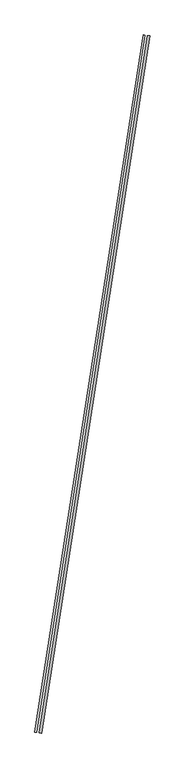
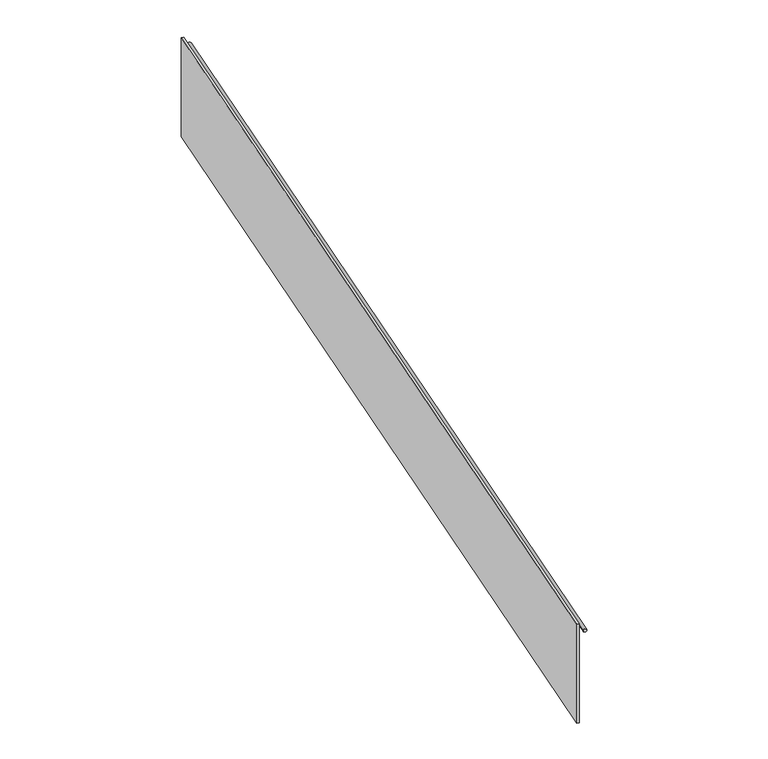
"""IFC4 building model written with IfcOpenShell, lengths in millimetres: railing geometry, Panel de vidrio - balcón."""

import ifcopenshell
import ifcopenshell.guid

model = None  # the IFC model being written
_history = None  # IfcOwnerHistory: only IFC2X3 demands one
_inside = {}  # id of a spatial element -> (the spatial element, [elements in it])
_under = {}  # id of a project, library or spatial element -> (it, [spatial elements below it])
_declared = {}  # id of a project -> (the project, [libraries it declares])
_typed = {}  # id of a type object -> (the type object, [elements of that type])
_made_of = {}  # id of a material, layer set ... -> (it, [elements and type objects made of it])


def new_model(schema):
    """Start an empty IFC model of exactly this schema.

    Asked for "IFC4X3", IfcOpenShell would pick the latest addendum, in which some entities
    have other attributes; the version numbers below select the first issue.
    IFC2X3 requires an IfcOwnerHistory on every rooted entity: one is made here for all.
    """
    global model, _history
    if schema == "IFC4X3":
        model = ifcopenshell.file(schema_version=(4, 3, 0, 0))
    else:
        model = ifcopenshell.file(schema=schema)
    _inside.clear()
    _under.clear()
    _declared.clear()
    _typed.clear()
    _made_of.clear()
    _history = None
    if model.schema == "IFC2X3":
        org = make("IfcOrganization", Name="unknown")
        user = make(
            "IfcPersonAndOrganization",
            ThePerson=make("IfcPerson", FamilyName="unknown"),
            TheOrganization=org,
        )
        app = make(
            "IfcApplication",
            ApplicationDeveloper=org,
            Version="unknown",
            ApplicationFullName="unknown",
            ApplicationIdentifier="unknown",
        )
        _history = make(
            "IfcOwnerHistory",
            OwningUser=user,
            OwningApplication=app,
            ChangeAction="ADDED",
            CreationDate=0,
        )
    return model


def make(cls, **values):
    """One entity of the class cls with the attributes given. An attribute that is None is left unset."""
    return model.create_entity(
        cls, **{name: value for name, value in values.items() if value is not None}
    )


def rooted(cls, **values):
    """An entity with a GlobalId (a new one), such as an element, a storey or a relation."""
    return make(cls, GlobalId=ifcopenshell.guid.new(), OwnerHistory=_history, **values)


def si_unit(unit_type, name, prefix=None):
    """IfcSIUnit, for example si_unit("LENGTHUNIT", "METRE", prefix="MILLI")."""
    return make("IfcSIUnit", UnitType=unit_type, Prefix=prefix, Name=name)


def assignment(units):
    """IfcUnitAssignment: the units of a project."""
    return None if units is None else make("IfcUnitAssignment", Units=units)


def point(xyz):
    """IfcCartesianPoint."""
    return None if xyz is None else make("IfcCartesianPoint", Coordinates=xyz)


def direction(xyz):
    """IfcDirection."""
    return None if xyz is None else make("IfcDirection", DirectionRatios=xyz)


def frame(location, z_axis=None, x_axis=None):
    """IfcAxis2Placement3D, a coordinate frame: its origin and axes. An axis left out is left unset."""
    return make(
        "IfcAxis2Placement3D",
        Location=point(location),
        Axis=direction(z_axis),
        RefDirection=direction(x_axis),
    )


def frame_2d(location, x_axis=None):
    """IfcAxis2Placement2D, a coordinate frame in the plane: its origin and x axis."""
    return make(
        "IfcAxis2Placement2D", Location=point(location), RefDirection=direction(x_axis)
    )


def origin():
    """The frame at (0, 0, 0) with its axes left unset."""
    return frame((0.0, 0.0, 0.0))


def origin_2d():
    """The frame at (0, 0) in the plane with its x axis left unset."""
    return frame_2d((0.0, 0.0))


def place(relative_to, where):
    """IfcLocalPlacement: puts the frame where relative to a parent placement (None: the world)."""
    return make(
        "IfcLocalPlacement", PlacementRelTo=relative_to, RelativePlacement=where
    )


def context(
    kind, dimensions, precision=None, world=None, true_north=None, identifier=None
):
    """IfcGeometricRepresentationContext, for example the 3D "Model" context."""
    return make(
        "IfcGeometricRepresentationContext",
        ContextIdentifier=identifier,
        ContextType=kind,
        CoordinateSpaceDimension=dimensions,
        Precision=precision,
        WorldCoordinateSystem=world,
        TrueNorth=true_north,
    )


def project(units=None, contexts=None):
    """IfcProject with its units and contexts."""
    return rooted(
        "IfcProject",
        Name="project",
        RepresentationContexts=contexts,
        UnitsInContext=assignment(units),
    )


def spatial(cls, under=None, at=None, **own):
    """A site, building, storey or space (cls), placed at a placement, below another one or the project."""
    s = rooted(cls, ObjectPlacement=at, **own)
    if under is not None:
        _under.setdefault(under.id(), (under, []))[1].append(s)
    return s


def polyline(points):
    """IfcPolyline through the points."""
    return make("IfcPolyline", Points=[point(p) for p in points])


def circle_curve(where, radius):
    """IfcCircle in the frame where."""
    return make("IfcCircle", Position=where, Radius=radius)


def trimmed(basis, trim1, trim2, sense, master):
    """IfcTrimmedCurve: the piece of a basis curve between two trims."""
    return make(
        "IfcTrimmedCurve",
        BasisCurve=basis,
        Trim1=trim1,
        Trim2=trim2,
        SenseAgreement=sense,
        MasterRepresentation=master,
    )


def segment(curve, same_sense, transition):
    """IfcCompositeCurveSegment."""
    return make(
        "IfcCompositeCurveSegment",
        Transition=transition,
        SameSense=same_sense,
        ParentCurve=curve,
    )


def composite_curve(segments, self_intersect=None):
    """IfcCompositeCurve: segments joined end to end."""
    return make("IfcCompositeCurve", Segments=segments, SelfIntersect=self_intersect)


def outline(outer, holes=None, kind="AREA"):
    """IfcArbitraryClosedProfileDef: a profile drawn as a closed curve; with holes, ...WithVoids."""
    if holes is None:
        return make("IfcArbitraryClosedProfileDef", ProfileType=kind, OuterCurve=outer)
    return make(
        "IfcArbitraryProfileDefWithVoids",
        ProfileType=kind,
        OuterCurve=outer,
        InnerCurves=holes,
    )


def extrude(swept, where, along, depth):
    """IfcExtrudedAreaSolid: the profile swept, set in the frame where, extruded along a direction by depth."""
    return make(
        "IfcExtrudedAreaSolid",
        SweptArea=swept,
        Position=where,
        ExtrudedDirection=direction(along),
        Depth=depth,
    )


def shape(context_of_items, identifier, shape_type, items):
    """IfcShapeRepresentation: the items that make up one representation, for example the "Body"."""
    return make(
        "IfcShapeRepresentation",
        ContextOfItems=context_of_items,
        RepresentationIdentifier=identifier,
        RepresentationType=shape_type,
        Items=items,
    )


def source(mapping_origin, context_of_items, identifier, shape_type, items):
    """IfcRepresentationMap: a shape defined once, which mapped items show again and again."""
    return make(
        "IfcRepresentationMap",
        MappingOrigin=mapping_origin,
        MappedRepresentation=shape(context_of_items, identifier, shape_type, items),
    )


def transform(
    local_origin,
    x_axis=None,
    y_axis=None,
    z_axis=None,
    scale=None,
    scale2=None,
    scale3=None,
    uniform=True,
):
    """IfcCartesianTransformationOperator3D, or its non-uniform kind. x_axis, y_axis, z_axis: its Axis1, 2, 3."""
    if uniform:
        return make(
            "IfcCartesianTransformationOperator3D",
            Axis1=direction(x_axis),
            Axis2=direction(y_axis),
            LocalOrigin=point(local_origin),
            Scale=scale,
            Axis3=direction(z_axis),
        )
    return make(
        "IfcCartesianTransformationOperator3DnonUniform",
        Axis1=direction(x_axis),
        Axis2=direction(y_axis),
        LocalOrigin=point(local_origin),
        Scale=scale,
        Axis3=direction(z_axis),
        Scale2=scale2,
        Scale3=scale3,
    )


def mapped(mapping_source, mapping_target):
    """IfcMappedItem: shows the shape of a source again, moved by a transform."""
    return make(
        "IfcMappedItem", MappingSource=mapping_source, MappingTarget=mapping_target
    )


def made_of(thing, what):
    """Note that an element or type object is made of a material, layer set ...; save() writes the relation."""
    if what is not None:
        _made_of.setdefault(what.id(), (what, []))[1].append(thing)
    return thing


def element(
    cls,
    number,
    at=None,
    inside=None,
    cuts=None,
    type_object=None,
    material=None,
    context=None,
    identifier="Body",
    shape_type=None,
    held_by="IfcProductDefinitionShape",
    body=None,
    shapes=None,
    **own,
):
    """One element of the class cls, such as IfcWall. Its Tag is "e" and its number.

    at: its placement. inside: the storey or other place that contains it. cuts: it is an
    opening in that element (IfcRelVoidsElement). A single representation is given by context,
    identifier, shape_type and body (its items); several are given by shapes. held_by: the class
    of the entity that holds the representations. save() writes the other relations.
    """
    e = rooted(cls, Tag="e%d" % number, ObjectPlacement=at, **own)
    if body is not None:
        shapes = [shape(context, identifier, shape_type, body)]
    if shapes is not None:
        e.Representation = make(held_by, Representations=shapes)
    if inside is not None:
        _inside.setdefault(inside.id(), (inside, []))[1].append(e)
    if cuts is not None:
        rooted(
            "IfcRelVoidsElement", RelatingBuildingElement=cuts, RelatedOpeningElement=e
        )
    if type_object is not None:
        _typed.setdefault(type_object.id(), (type_object, []))[1].append(e)
    return made_of(e, material)


def aggregate(whole, parts):
    """IfcRelAggregates: a whole, such as a stair, and the parts it consists of."""
    return rooted("IfcRelAggregates", RelatingObject=whole, RelatedObjects=parts)


def save(model, path):
    """Write the relations noted so far, then the file.

    IfcRelAggregates (storeys below a building ...), IfcRelContainedInSpatialStructure (elements
    in a storey), IfcRelDefinesByType, IfcRelAssociatesMaterial and IfcRelDeclares: one each for
    every whole, place, type object, material and project.
    """
    for whole, parts in _under.values():
        aggregate(whole, parts)
    for where, things in _inside.values():
        rooted(
            "IfcRelContainedInSpatialStructure",
            RelatedElements=things,
            RelatingStructure=where,
        )
    for kind, things in _typed.values():
        rooted("IfcRelDefinesByType", RelatedObjects=things, RelatingType=kind)
    for what, things in _made_of.values():
        rooted("IfcRelAssociatesMaterial", RelatedObjects=things, RelatingMaterial=what)
    for by, libraries in _declared.values():
        rooted("IfcRelDeclares", RelatingContext=by, RelatedDefinitions=libraries)
    model.write(path)


def railing_ab3cd166(model_context):
    return source(origin(), model_context, "Body", "SweptSolid", [
        extrude(outline(polyline([(-34194.1864756, -62027.932986), (-34169.4847429, -62031.783233), (-35848.9624765, -72806.6790349), (-35873.6642092, -72802.8287879), (-34194.1864756, -62027.932986)])), frame((0.0, 0.0, 9345.385397), z_axis=(0.0, 0.0, 1.0), x_axis=(1.0, 0.0, 0.0)), (0.0, 0.0, 1.0), 1200.0),
        extrude(outline(composite_curve([segment(trimmed(circle_curve(origin_2d(), 20.0), [point((20.0, 0.0))], [point((-19.9999999, 0.0))], False, "CARTESIAN"), True, "CONTINUOUS"), segment(trimmed(circle_curve(origin_2d(), 20.0), [point((-19.9999999, 0.0))], [point((20.0, 0.0))], False, "CARTESIAN"), True, "CONTINUOUS")], self_intersect=False)), frame((-35787.7946585, -72816.2132327, 10450.0), z_axis=(0.15400987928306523, 0.9880693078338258, 0.0), x_axis=(0.9880693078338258, -0.15400987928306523, 0.0)), (0.0, 0.0, 1.0), 10905.0),
    ])


if __name__ == "__main__":
    model = new_model("IFC4")
    model_context = context("Model", 3, world=origin())
    ifc_project = project(units=[si_unit("LENGTHUNIT", "METRE", prefix="MILLI")], contexts=[model_context])
    site = spatial("IfcSite", under=ifc_project)
    building = spatial("IfcBuilding", under=site)
    placement = place(None, origin())
    railing_shape = railing_ab3cd166(model_context)
    element("IfcRailing", 1, ObjectType="Panel de vidrio - balcón", at=placement, inside=building, context=model_context, shape_type="MappedRepresentation", body=[
        mapped(railing_shape, transform((0.0, 0.0, 0.0), x_axis=(1.0, 0.0, 0.0), y_axis=(0.0, 1.0, 0.0), z_axis=(0.0, 0.0, 1.0))),
    ])
    save(model, "model.ifc")
